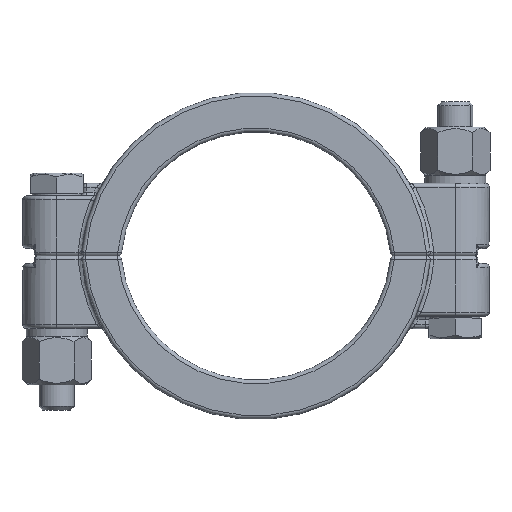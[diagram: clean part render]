
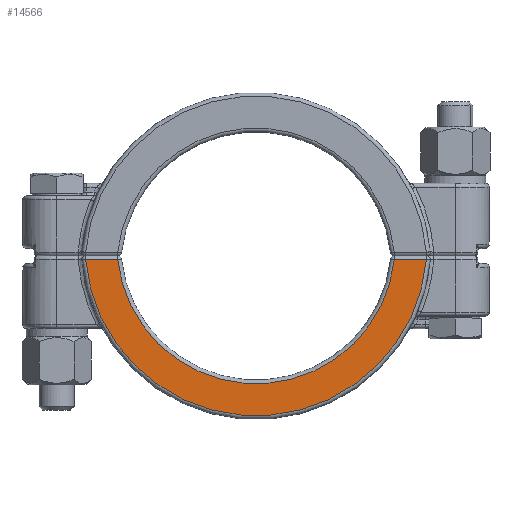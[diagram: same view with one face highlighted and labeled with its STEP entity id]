
A CAD part, top view. The second image highlights one B-rep face of the part: STEP entity #14566.
In plain terms, the highlighted planar face has unit normal (0, 0, 1).
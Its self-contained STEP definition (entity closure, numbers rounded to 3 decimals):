
#881 = EDGE_CURVE ( 'NONE', #6479, #8291, #7249, .T. ) ;
#1164 = ORIENTED_EDGE ( 'NONE', *, *, #10330, .T. ) ;
#1220 = DIRECTION ( 'NONE',  ( 1., 0., 0. ) ) ;
#1522 = CARTESIAN_POINT ( 'NONE',  ( 0., 0., 11.5 ) ) ;
#1901 = DIRECTION ( 'NONE',  ( 1., 0., 0. ) ) ;
#3234 = AXIS2_PLACEMENT_3D ( 'NONE', #1522, #9125, #5395 ) ;
#3875 = CARTESIAN_POINT ( 'NONE',  ( 36.783, -4., 11.5 ) ) ;
#4542 = ORIENTED_EDGE ( 'NONE', *, *, #881, .T. ) ;
#5395 = DIRECTION ( 'NONE',  ( 1., 0., 0. ) ) ;
#5917 = AXIS2_PLACEMENT_3D ( 'NONE', #8242, #13361, #1901 ) ;
#6316 = VERTEX_POINT ( 'NONE', #6583 ) ;
#6479 = VERTEX_POINT ( 'NONE', #3875 ) ;
#6583 = CARTESIAN_POINT ( 'NONE',  ( -45.324, -4., 11.5 ) ) ;
#6639 = DIRECTION ( 'NONE',  ( -1., 0., 0. ) ) ;
#7249 = CIRCLE ( 'NONE', #5917, 37. ) ;
#7379 = VECTOR ( 'NONE', #6639, 1000. ) ;
#8078 = CARTESIAN_POINT ( 'NONE',  ( 35.875, -4., 11.5 ) ) ;
#8242 = CARTESIAN_POINT ( 'NONE',  ( 0., 0., 11.5 ) ) ;
#8291 = VERTEX_POINT ( 'NONE', #16291 ) ;
#8745 = CARTESIAN_POINT ( 'NONE',  ( 0., 0., 11.5 ) ) ;
#9125 = DIRECTION ( 'NONE',  ( 0., 0., -1. ) ) ;
#9442 = EDGE_LOOP ( 'NONE', ( #14195, #4542, #1164, #10696 ) ) ;
#9443 = CARTESIAN_POINT ( 'NONE',  ( -46.403, -4., 11.5 ) ) ;
#10299 = VERTEX_POINT ( 'NONE', #13981 ) ;
#10330 = EDGE_CURVE ( 'NONE', #8291, #6316, #13900, .T. ) ;
#10676 = EDGE_CURVE ( 'NONE', #10299, #6479, #11703, .T. ) ;
#10696 = ORIENTED_EDGE ( 'NONE', *, *, #15172, .T. ) ;
#11121 = VECTOR ( 'NONE', #13215, 1000. ) ;
#11703 = LINE ( 'NONE', #8078, #11121 ) ;
#12330 = CIRCLE ( 'NONE', #15818, 45.5 ) ;
#12673 = DIRECTION ( 'NONE',  ( 0., 0., 1. ) ) ;
#12903 = FACE_OUTER_BOUND ( 'NONE', #9442, .T. ) ;
#13215 = DIRECTION ( 'NONE',  ( -1., 0., 0. ) ) ;
#13361 = DIRECTION ( 'NONE',  ( 0., 0., -1. ) ) ;
#13900 = LINE ( 'NONE', #9443, #7379 ) ;
#13981 = CARTESIAN_POINT ( 'NONE',  ( 45.324, -4., 11.5 ) ) ;
#14195 = ORIENTED_EDGE ( 'NONE', *, *, #10676, .T. ) ;
#14317 = PLANE ( 'NONE',  #3234 ) ;
#14566 = ADVANCED_FACE ( 'NONE', ( #12903 ), #14317, .F. ) ;
#15172 = EDGE_CURVE ( 'NONE', #6316, #10299, #12330, .T. ) ;
#15818 = AXIS2_PLACEMENT_3D ( 'NONE', #8745, #12673, #1220 ) ;
#16291 = CARTESIAN_POINT ( 'NONE',  ( -36.783, -4., 11.5 ) ) ;
